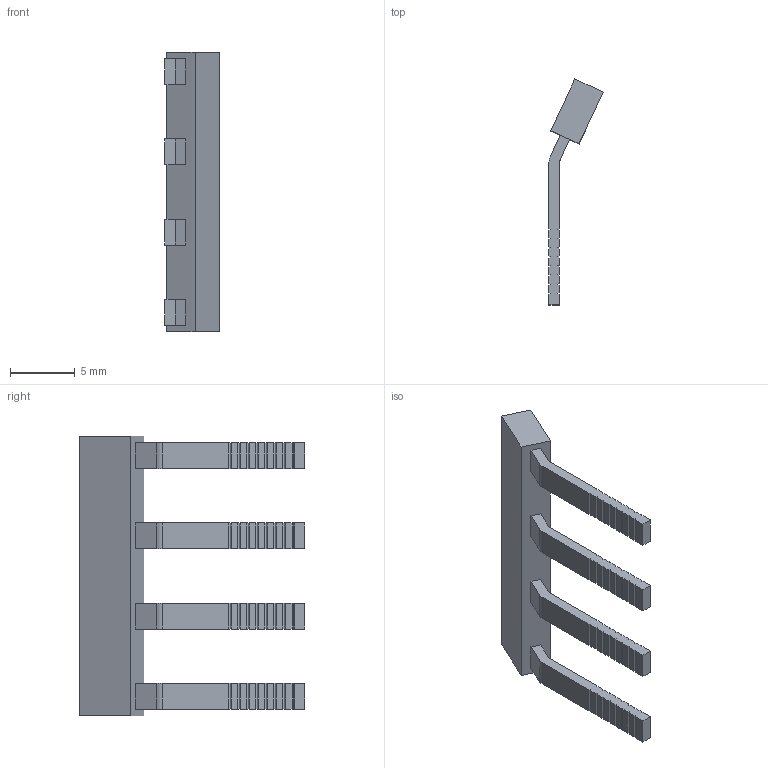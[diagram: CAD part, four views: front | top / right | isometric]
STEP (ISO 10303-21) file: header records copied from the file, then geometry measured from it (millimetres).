
FILE_DESCRIPTION(('Open CASCADE Model'),'2;1');
FILE_NAME('Open CASCADE Shape Model','2023-12-20T15:27:08',('Author'),( 'Open CASCADE'),'Open CASCADE STEP processor 6.5','Open CASCADE 6.5' ,'Unknown');
FILE_SCHEMA(('AUTOMOTIVE_DESIGN { 1 0 10303 214 1 1 1 1 }'));
Length unit declared in the file: millimetre
Products named in the file (231): CADSOFTTOOLS 8; CADSOFTTOOLS 8.1; CADSOFTTOOLS 8.2; CADSOFTTOOLS 8.3; CADSOFTTOOLS 8.4; CADSOFTTOOLS 8.5; CADSOFTTOOLS 8.6; CADSOFTTOOLS 8.7; CADSOFTTOOLS 8.8; CADSOFTTOOLS 8.9; CADSOFTTOOLS 8.10; CADSOFTTOOLS 8.11; CADSOFTTOOLS 8.12; CADSOFTTOOLS 8.13; CADSOFTTOOLS 8.14; CADSOFTTOOLS 8.15; CADSOFTTOOLS 8.16; CADSOFTTOOLS 8.17; CADSOFTTOOLS 8.18; CADSOFTTOOLS 8.19; CADSOFTTOOLS 8.20; CADSOFTTOOLS 8.21; CADSOFTTOOLS 8.22; CADSOFTTOOLS 8.23; CADSOFTTOOLS 8.24; CADSOFTTOOLS 8.25; CADSOFTTOOLS 8.26; CADSOFTTOOLS 8.27; CADSOFTTOOLS 8.28; CADSOFTTOOLS 8.29; CADSOFTTOOLS 8.30; CADSOFTTOOLS 8.31; CADSOFTTOOLS 8.32; CADSOFTTOOLS 8.33; CADSOFTTOOLS 8.34; CADSOFTTOOLS 8.35; CADSOFTTOOLS 8.36; CADSOFTTOOLS 8.37; CADSOFTTOOLS 8.38; CADSOFTTOOLS 8.39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
Assembly tree (230 placements, depth 2):
  CADSOFTTOOLS 8
    CADSOFTTOOLS 8.1
    CADSOFTTOOLS 8.2
    CADSOFTTOOLS 8.3
    CADSOFTTOOLS 8.4
    CADSOFTTOOLS 8.5
    CADSOFTTOOLS 8.6
    CADSOFTTOOLS 8.7
    CADSOFTTOOLS 8.8
    CADSOFTTOOLS 8.9
    CADSOFTTOOLS 8.10
    CADSOFTTOOLS 8.11
    CADSOFTTOOLS 8.12
    CADSOFTTOOLS 8.13
    CADSOFTTOOLS 8.14
    CADSOFTTOOLS 8.15
    CADSOFTTOOLS 8.16
    CADSOFTTOOLS 8.17
    CADSOFTTOOLS 8.18
    CADSOFTTOOLS 8.19
    CADSOFTTOOLS 8.20
    CADSOFTTOOLS 8.21
    CADSOFTTOOLS 8.22
    CADSOFTTOOLS 8.23
    CADSOFTTOOLS 8.24
    CADSOFTTOOLS 8.25
    CADSOFTTOOLS 8.26
    CADSOFTTOOLS 8.27
    CADSOFTTOOLS 8.28
    CADSOFTTOOLS 8.29
    CADSOFTTOOLS 8.30
    CADSOFTTOOLS 8.31
    CADSOFTTOOLS 8.32
    CADSOFTTOOLS 8.33
    CADSOFTTOOLS 8.34
    CADSOFTTOOLS 8.35
    CADSOFTTOOLS 8.36
    CADSOFTTOOLS 8.37
    CADSOFTTOOLS 8.38
    CADSOFTTOOLS 8.39
    CADSOFTTOOLS 8.40
    CADSOFTTOOLS 8.41
    CADSOFTTOOLS 8.42
    CADSOFTTOOLS 8.43
    CADSOFTTOOLS 8.44
    CADSOFTTOOLS 8.45
    CADSOFTTOOLS 8.46
    CADSOFTTOOLS 8.47
    CADSOFTTOOLS 8.48
    CADSOFTTOOLS 8.49
    CADSOFTTOOLS 8.50
    CADSOFTTOOLS 8.51
    CADSOFTTOOLS 8.52
    CADSOFTTOOLS 8.53
    CADSOFTTOOLS 8.54
    CADSOFTTOOLS 8.55
    CADSOFTTOOLS 8.56
    CADSOFTTOOLS 8.57
    CADSOFTTOOLS 8.58
    CADSOFTTOOLS 8.59
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Bounding box: 4.19 x 17.43 x 21.6 mm (x, y, z)
Surface area: 618 mm2 (no closed solid volume)
Topology: 0 solids, 230 shells, 230 faces, 1344 edges, 1344 vertices
Faces by surface type: plane 226, cylinder 4
Entity records: 26624 total; most frequent: CARTESIAN_POINT 4509, DIRECTION 3610, LINE 2648, VECTOR 2648, ORIENTED_EDGE 1344, EDGE_CURVE 1344, VERTEX_POINT 1344, SURFACE_CURVE 1344
